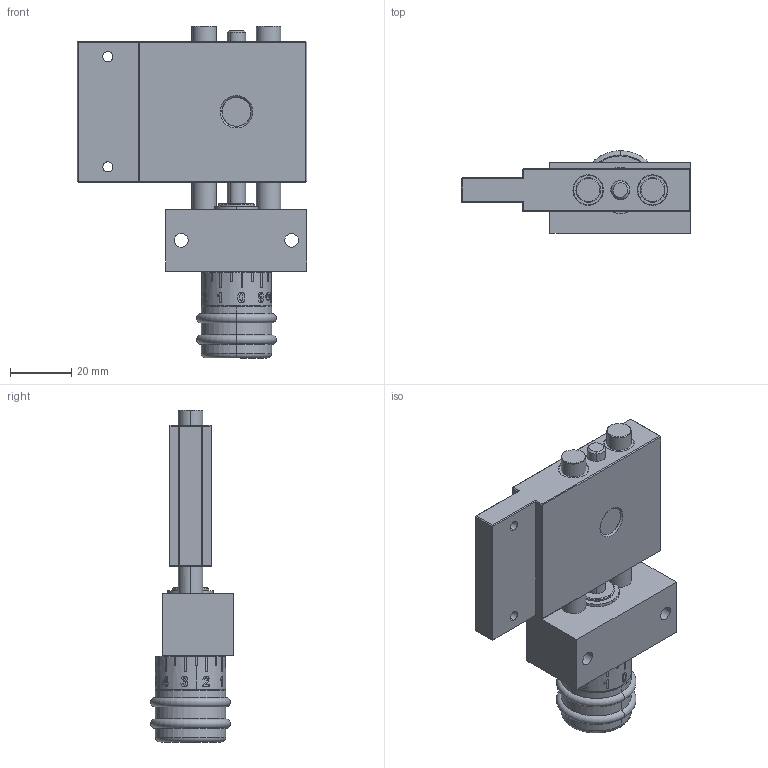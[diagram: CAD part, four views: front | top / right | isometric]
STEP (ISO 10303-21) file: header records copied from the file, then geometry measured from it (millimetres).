
FILE_DESCRIPTION (( 'STEP AP203' ), '1' );
FILE_NAME ('KT1408-KR-SK-Kreuztisch.STEP', '2016-01-15T16:48:52', ( '' ), ( '' ), 'SwSTEP 2.0', 'SolidWorks 2014', '' );
FILE_SCHEMA (( 'CONFIG_CONTROL_DESIGN' ));
Length unit declared in the file: millimetre
Products named in the file (3): KT1408-KR-SK-Kreuztisch; PT1408-000-01-Festteil-SK; KT08-000-02-K-Schlitten-komplett
Assembly tree (2 placements, depth 2):
  KT1408-KR-SK-Kreuztisch
    PT1408-000-01-Festteil-SK
    KT08-000-02-K-Schlitten-komplett
Bounding box: 75 x 27.02 x 108.39 mm (x, y, z)
Volume: 73822.6 mm3; surface area: 29598.3 mm2
Topology: 2 solids, 5 shells, 536 faces, 1346 edges, 866 vertices
Faces by surface type: plane 213, cylinder 123, bspline 102, cone 76, torus 20, sphere 2
Entity records: 30790 total; most frequent: CARTESIAN_POINT 18332, ORIENTED_EDGE 2684, DIRECTION 2250, EDGE_CURVE 1342, VERTEX_POINT 866, AXIS2_PLACEMENT_3D 863, EDGE_LOOP 606, ADVANCED_FACE 536
